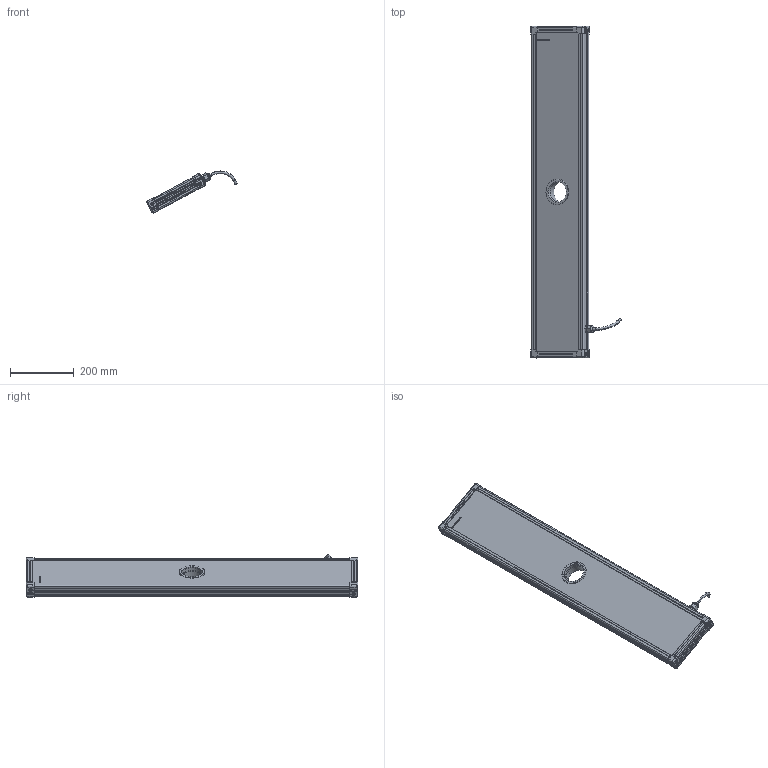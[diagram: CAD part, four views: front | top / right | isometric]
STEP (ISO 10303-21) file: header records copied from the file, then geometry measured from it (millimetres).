
FILE_DESCRIPTION (( 'STEP AP214' ), '1' );
FILE_NAME ('EFFI-FD-150-1000-ZZZ-1M12P.STEP', '2021-06-23T09:32:06', ( '' ), ( '' ), 'SwSTEP 2.0', 'SolidWorks 2021', '' );
FILE_SCHEMA (( 'AUTOMOTIVE_DESIGN' ));
Length unit declared in the file: millimetre
Products named in the file (13): Assemblage Ø65; petite joue + vis; 004409; petite joue; EFFI-FD-150-1000-ZZZ-1M12P; profile X_PERCE; profile Y_PERCE; 000629; 000590; 004408; Pièce13^EFFI-FD-XXX-YYY-ZZZ (1 connecteur) M12POWER Ø65; M12 power_AVEC CABLE D8.1
Assembly tree (19 placements, depth 3):
  EFFI-FD-150-1000-ZZZ-1M12P
    profile X_PERCE  x2
    profile Y_PERCE
    profile Y_PERCE
    Pièce13^EFFI-FD-XXX-YYY-ZZZ (1 connecteur) M12POWER Ø65
    petite joue + vis  x4
      petite joue
      000629
    M12 power_AVEC CABLE D8.1
    Assemblage Ø65
      004408
      004409
      000590  x3
Bounding box: 282.59 x 1039 x 131.93 mm (x, y, z)
Volume: 6626402.7 mm3; surface area: 787818.4 mm2
Topology: 22 solids, 25 shells, 3951 faces, 10520 edges, 6907 vertices
Faces by surface type: plane 2447, cylinder 720, bspline 591, cone 156, torus 29, sphere 8
Entity records: 56000 total; most frequent: CARTESIAN_POINT 22561, ORIENTED_EDGE 7014, DIRECTION 5746, EDGE_CURVE 3509, LINE 2458, VECTOR 2458, VERTEX_POINT 2308, AXIS2_PLACEMENT_3D 1644
